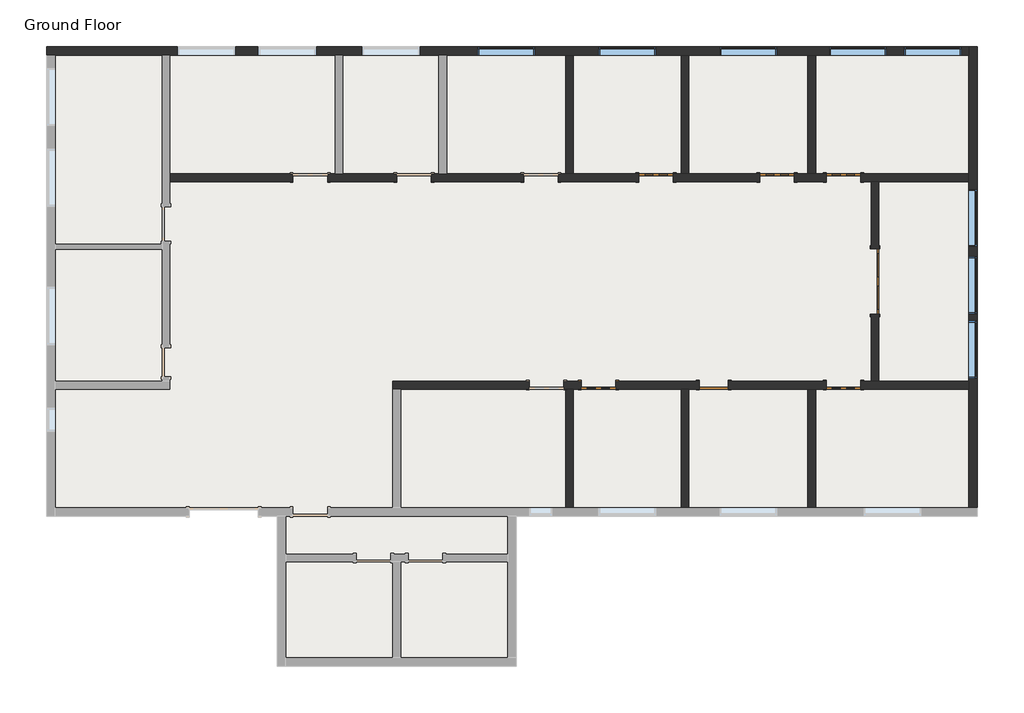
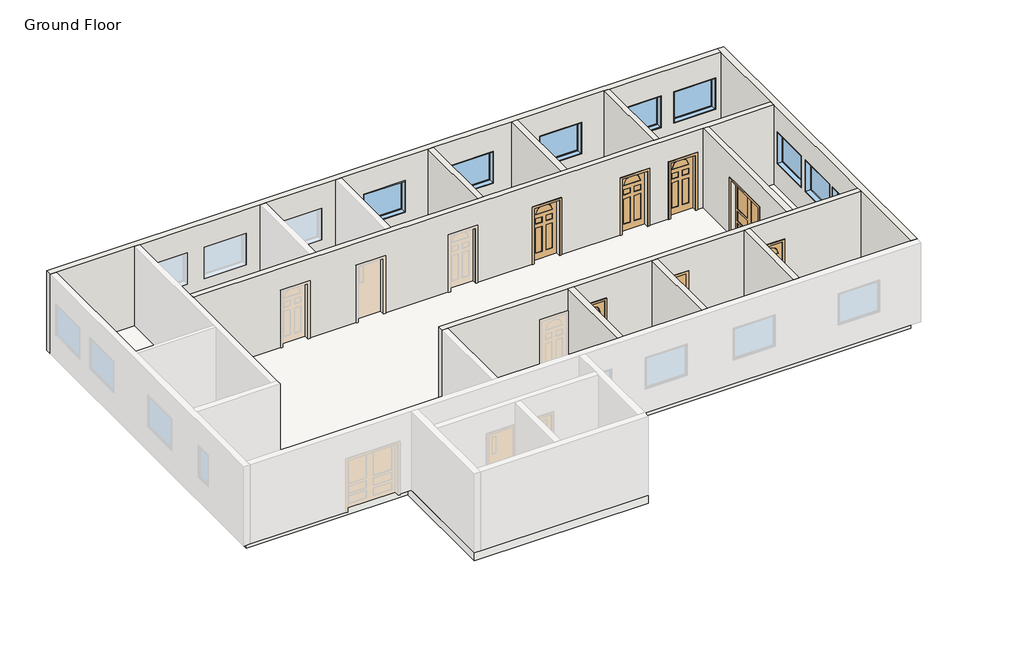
# One storey, part 2 of 2: 11 walls, 8 windows, 7 doors, 1 slab.
"""IFC4 building model written with IfcOpenShell, lengths in millimetres."""

from ifc_helpers import new_model, si_unit, frame, origin, origin_with_axes, place, context, project, spatial, polyline, outline, extrude, faceted_brep, transform, mapped, element, save
from components import door_5eeea989, door_f6339938, door_23e61c23, door_b6acaa4e, window_145d3b12

model = new_model("IFC4")

# Units and contexts
model_context = context("Model", 3, world=origin())
ifc_project = project(units=[si_unit("LENGTHUNIT", "METRE", prefix="MILLI")], contexts=[model_context])

# Site, building, storey
site = spatial("IfcSite", under=ifc_project)
building = spatial("IfcBuilding", under=site)
storey = spatial("IfcBuildingStorey", under=building, Name="Ground Floor", Elevation=0.0)

# Doors
placement = place(None, origin())
door_shape = door_5eeea989(model_context)
element("IfcDoor", 1, ObjectType="Double-Panel 1 : 68\" x 84\"", at=placement, inside=storey, context=model_context, shape_type="MappedRepresentation", body=[
    mapped(door_shape, transform((8515.1470059, 5602.8787797, 0.0), x_axis=(0.0, -1.0, 0.0), y_axis=(1.0, 0.0, 0.0), z_axis=(0.0, 0.0, 1.0))),
])
door_2_shape = door_f6339938(model_context)
element("IfcDoor", 2, ObjectType="Single-Decorative 2 : 36\" x 84\"", at=placement, inside=storey, context=model_context, shape_type="MappedRepresentation", body=[
    mapped(door_2_shape, transform((2723.9470059, 8346.0787797, 0.0), x_axis=(1.0, 0.0, 0.0), y_axis=(0.0, 1.0, 0.0), z_axis=(0.0, 0.0, 1.0))),
])
element("IfcDoor", 3, ObjectType="Single-Decorative 2 : 36\" x 84\"", at=placement, inside=storey, context=model_context, shape_type="MappedRepresentation", body=[
    mapped(door_2_shape, transform((5924.3470059, 8346.0787797, 0.0), x_axis=(1.0, 0.0, 0.0), y_axis=(0.0, 1.0, 0.0), z_axis=(0.0, 0.0, 1.0))),
])
element("IfcDoor", 4, ObjectType="Single-Decorative 2 : 36\" x 84\"", at=placement, inside=storey, context=model_context, shape_type="MappedRepresentation", body=[
    mapped(door_2_shape, transform((1199.9470059, 2859.6787797, 0.0), x_axis=(-1.0, 0.0, 0.0), y_axis=(0.0, -1.0, 0.0), z_axis=(0.0, 0.0, 1.0))),
])
element("IfcDoor", 5, ObjectType="Single-Decorative 2 : 36\" x 84\"", at=placement, inside=storey, context=model_context, shape_type="MappedRepresentation", body=[
    mapped(door_2_shape, transform((7676.9470059, 2859.6787797, 0.0), x_axis=(-1.0, 0.0, 0.0), y_axis=(0.0, -1.0, 0.0), z_axis=(0.0, 0.0, 1.0))),
])
door_3_shape = door_23e61c23(model_context)
element("IfcDoor", 6, ObjectType="Single-Decorative 2 : 36\" x 84\"", at=placement, inside=storey, context=model_context, shape_type="MappedRepresentation", body=[
    mapped(door_3_shape, transform((7676.9470059, 8346.0787797, 0.0), x_axis=(-1.0, 0.0, 0.0), y_axis=(0.0, -1.0, 0.0), z_axis=(0.0, 0.0, 1.0))),
])
door_4_shape = door_b6acaa4e(model_context)
element("IfcDoor", 7, ObjectType="Single-Flush : 30\" x 84\"", at=placement, inside=storey, context=model_context, shape_type="MappedRepresentation", body=[
    mapped(door_4_shape, transform((4247.9470059, 2859.6787797, 0.0), x_axis=(-1.0, 0.0, 0.0), y_axis=(0.0, -1.0, 0.0), z_axis=(0.0, 0.0, 1.0))),
])

# Slab
element("IfcSlab", 8, ObjectType="Generic - 12\"", at=placement, inside=storey, context=model_context, shape_type="SweptSolid", body=[
    extrude(outline(polyline([(10991.6470059, 11584.5787797), (10991.6470059, -378.8212203), (-971.7529941, -378.8212203), (-971.7529941, -4569.8212203), (-7296.3529941, -4569.8212203), (-7296.3529941, -378.8212203), (-13163.7529941, -378.8212203), (-13163.7529941, 11584.5787797), (10991.6470059, 11584.5787797)])), frame((0.0, 0.0, -304.8), z_axis=(0.0, 0.0, 1.0), x_axis=(1.0, 0.0, 0.0)), (0.0, 0.0, 1.0), 304.8),
])

# Walls
element("IfcWall", 9, ObjectType="Generic - 8\"", at=placement, inside=storey, context=model_context, shape_type="Brep", body=[
    faceted_brep([(6381.5470059, 8244.4787797, 0.0), (7219.7470059, 8244.4787797, 0.0), (7219.7470059, 8244.4787797, 2133.6), (8134.1470059, 8244.4787797, 2133.6), (8134.1470059, 8244.4787797, 0.0), (8413.5470059, 8244.4787797, 0.0), (8616.7470059, 8244.4787797, 0.0), (10991.6470059, 8244.4787797, 0.0), (10991.6470059, 8244.4787797, 3048.0), (8616.7470059, 8244.4787797, 3048.0), (8413.5470059, 8244.4787797, 3048.0), (-10128.4529941, 8244.4787797, 3048.0), (-10128.4529941, 8244.4787797, 0.0), (-6877.2529941, 8244.4787797, 0.0), (-6877.2529941, 8244.4787797, 2133.6), (-5962.8529941, 8244.4787797, 2133.6), (-5962.8529941, 8244.4787797, 0.0), (-4134.0529941, 8244.4787797, 0.0), (-4134.0529941, 8244.4787797, 2133.6), (-3219.6529941, 8244.4787797, 2133.6), (-3219.6529941, 8244.4787797, 0.0), (-781.2529941, 8244.4787797, 0.0), (-781.2529941, 8244.4787797, 2133.6), (133.1470059, 8244.4787797, 2133.6), (133.1470059, 8244.4787797, 0.0), (2266.7470059, 8244.4787797, 0.0), (2266.7470059, 8244.4787797, 2133.6), (3181.1470059, 8244.4787797, 2133.6), (3181.1470059, 8244.4787797, 0.0), (5467.1470059, 8244.4787797, 0.0), (5467.1470059, 8244.4787797, 2133.6), (6381.5470059, 8244.4787797, 2133.6), (7219.7470059, 8447.6787797, 2133.6), (7219.7470059, 8447.6787797, 0.0), (6940.3470059, 8447.6787797, 0.0), (6737.1470059, 8447.6787797, 0.0), (6381.5470059, 8447.6787797, 0.0), (6381.5470059, 8447.6787797, 2133.6), (5467.1470059, 8447.6787797, 2133.6), (5467.1470059, 8447.6787797, 0.0), (3587.5470059, 8447.6787797, 0.0), (3384.3470059, 8447.6787797, 0.0), (3181.1470059, 8447.6787797, 0.0), (3181.1470059, 8447.6787797, 2133.6), (2266.7470059, 8447.6787797, 2133.6), (2266.7470059, 8447.6787797, 0.0), (539.5470059, 8447.6787797, 0.0), (336.3470059, 8447.6787797, 0.0), (133.1470059, 8447.6787797, 0.0), (133.1470059, 8447.6787797, 2133.6), (-781.2529941, 8447.6787797, 2133.6), (-781.2529941, 8447.6787797, 0.0), (-2813.2529941, 8447.6787797, 0.0), (-3016.4529941, 8447.6787797, 0.0), (-3219.6529941, 8447.6787797, 0.0), (-3219.6529941, 8447.6787797, 2133.6), (-4134.0529941, 8447.6787797, 2133.6), (-4134.0529941, 8447.6787797, 0.0), (-5556.4529941, 8447.6787797, 0.0), (-5759.6529941, 8447.6787797, 0.0), (-5962.8529941, 8447.6787797, 0.0), (-5962.8529941, 8447.6787797, 2133.6), (-6877.2529941, 8447.6787797, 2133.6), (-6877.2529941, 8447.6787797, 0.0), (-10128.4529941, 8447.6787797, 0.0), (-10128.4529941, 8447.6787797, 3048.0), (-5759.6529941, 8447.6787797, 3048.0), (-5556.4529941, 8447.6787797, 3048.0), (-3016.4529941, 8447.6787797, 3048.0), (-2813.2529941, 8447.6787797, 3048.0), (336.3470059, 8447.6787797, 3048.0), (539.5470059, 8447.6787797, 3048.0), (3384.3470059, 8447.6787797, 3048.0), (3587.5470059, 8447.6787797, 3048.0), (6737.1470059, 8447.6787797, 3048.0), (6940.3470059, 8447.6787797, 3048.0), (10991.6470059, 8447.6787797, 3048.0), (10991.6470059, 8447.6787797, 0.0), (8134.1470059, 8447.6787797, 0.0), (8134.1470059, 8447.6787797, 2133.6)], [[[0, 1, 2, 3, 4, 5, 6, 7, 8, 9, 10, 11, 12, 13, 14, 15, 16, 17, 18, 19, 20, 21, 22, 23, 24, 25, 26, 27, 28, 29, 30, 31]], [[32, 33, 34, 35, 36, 37, 38, 39, 40, 41, 42, 43, 44, 45, 46, 47, 48, 49, 50, 51, 52, 53, 54, 55, 56, 57, 58, 59, 60, 61, 62, 63, 64, 65, 66, 67, 68, 69, 70, 71, 72, 73, 74, 75, 76, 77, 78, 79]], [[13, 12, 64, 63]], [[17, 16, 60, 59, 58, 57]], [[21, 20, 54, 53, 52, 51]], [[25, 24, 48, 47, 46, 45]], [[29, 28, 42, 41, 40, 39]], [[78, 77, 7, 6, 5, 4]], [[36, 35, 34, 33, 1, 0]], [[11, 10, 9, 8, 76, 75, 74, 73, 72, 71, 70, 69, 68, 67, 66, 65]], [[8, 7, 77, 76]], [[12, 11, 65, 64]], [[55, 54, 20, 19]], [[56, 55, 19, 18]], [[57, 56, 18, 17]], [[61, 60, 16, 15]], [[62, 61, 15, 14]], [[63, 62, 14, 13]], [[49, 48, 24, 23]], [[50, 49, 23, 22]], [[51, 50, 22, 21]], [[43, 42, 28, 27]], [[44, 43, 27, 26]], [[45, 44, 26, 25]], [[37, 36, 0, 31]], [[38, 37, 31, 30]], [[39, 38, 30, 29]], [[2, 1, 33, 32]], [[3, 2, 32, 79]], [[4, 3, 79, 78]]]),
])
element("IfcWall", 10, ObjectType="Generic - 8\"", at=placement, inside=storey, context=model_context, shape_type="SweptSolid", body=[
    extrude(outline(polyline([(336.3470059, 8447.6787797), (336.3470059, 11584.5787797), (539.5470059, 11584.5787797), (539.5470059, 8447.6787797), (336.3470059, 8447.6787797)])), origin_with_axes(), (0.0, 0.0, 1.0), 3048.0),
])
element("IfcWall", 11, ObjectType="Generic - 8\"", at=placement, inside=storey, context=model_context, shape_type="SweptSolid", body=[
    extrude(outline(polyline([(3384.3470059, 8447.6787797), (3384.3470059, 11584.5787797), (3587.5470059, 11584.5787797), (3587.5470059, 8447.6787797), (3384.3470059, 8447.6787797)])), origin_with_axes(), (0.0, 0.0, 1.0), 3048.0),
])
element("IfcWall", 12, ObjectType="Generic - 8\"", at=placement, inside=storey, context=model_context, shape_type="SweptSolid", body=[
    extrude(outline(polyline([(6737.1470059, 8447.6787797), (6737.1470059, 11584.5787797), (6940.3470059, 11584.5787797), (6940.3470059, 8447.6787797), (6737.1470059, 8447.6787797)])), origin_with_axes(), (0.0, 0.0, 1.0), 3048.0),
])
element("IfcWall", 13, ObjectType="Generic - 8\"", at=placement, inside=storey, context=model_context, shape_type="Brep", body=[
    faceted_brep([(1657.1470059, 2758.0787797, 0.0), (3384.3470059, 2758.0787797, 0.0), (3587.5470059, 2758.0787797, 0.0), (3866.9470059, 2758.0787797, 0.0), (3866.9470059, 2758.0787797, 2133.6), (4628.9470059, 2758.0787797, 2133.6), (4628.9470059, 2758.0787797, 0.0), (6737.1470059, 2758.0787797, 0.0), (6940.3470059, 2758.0787797, 0.0), (7219.7470059, 2758.0787797, 0.0), (7219.7470059, 2758.0787797, 2133.6), (8134.1470059, 2758.0787797, 2133.6), (8134.1470059, 2758.0787797, 0.0), (10991.6470059, 2758.0787797, 0.0), (10991.6470059, 2758.0787797, 3048.0), (6940.3470059, 2758.0787797, 3048.0), (6737.1470059, 2758.0787797, 3048.0), (3587.5470059, 2758.0787797, 3048.0), (3384.3470059, 2758.0787797, 3048.0), (539.5470059, 2758.0787797, 3048.0), (336.3470059, 2758.0787797, 3048.0), (-4032.4529941, 2758.0787797, 3048.0), (-4235.6529941, 2758.0787797, 3048.0), (-4235.6529941, 2758.0787797, 0.0), (-4032.4529941, 2758.0787797, 0.0), (-628.8529941, 2758.0787797, 0.0), (-628.8529941, 2758.0787797, 2133.6), (285.5470059, 2758.0787797, 2133.6), (285.5470059, 2758.0787797, 0.0), (336.3470059, 2758.0787797, 0.0), (539.5470059, 2758.0787797, 0.0), (742.7470059, 2758.0787797, 0.0), (742.7470059, 2758.0787797, 2133.6), (1657.1470059, 2758.0787797, 2133.6), (3866.9470059, 2961.2787797, 2133.6), (3866.9470059, 2961.2787797, 0.0), (1657.1470059, 2961.2787797, 0.0), (1657.1470059, 2961.2787797, 2133.6), (742.7470059, 2961.2787797, 2133.6), (742.7470059, 2961.2787797, 0.0), (285.5470059, 2961.2787797, 0.0), (285.5470059, 2961.2787797, 2133.6), (-628.8529941, 2961.2787797, 2133.6), (-628.8529941, 2961.2787797, 0.0), (-4235.6529941, 2961.2787797, 0.0), (-4235.6529941, 2961.2787797, 3048.0), (8413.5470059, 2961.2787797, 3048.0), (8616.7470059, 2961.2787797, 3048.0), (10991.6470059, 2961.2787797, 3048.0), (10991.6470059, 2961.2787797, 0.0), (8616.7470059, 2961.2787797, 0.0), (8413.5470059, 2961.2787797, 0.0), (8134.1470059, 2961.2787797, 0.0), (8134.1470059, 2961.2787797, 2133.6), (7219.7470059, 2961.2787797, 2133.6), (7219.7470059, 2961.2787797, 0.0), (4628.9470059, 2961.2787797, 0.0), (4628.9470059, 2961.2787797, 2133.6)], [[[0, 1, 2, 3, 4, 5, 6, 7, 8, 9, 10, 11, 12, 13, 14, 15, 16, 17, 18, 19, 20, 21, 22, 23, 24, 25, 26, 27, 28, 29, 30, 31, 32, 33]], [[34, 35, 36, 37, 38, 39, 40, 41, 42, 43, 44, 45, 46, 47, 48, 49, 50, 51, 52, 53, 54, 55, 56, 57]], [[44, 43, 25, 24, 23]], [[40, 39, 31, 30, 29, 28]], [[52, 51, 50, 49, 13, 12]], [[56, 55, 9, 8, 7, 6]], [[36, 35, 3, 2, 1, 0]], [[22, 21, 20, 19, 18, 17, 16, 15, 14, 48, 47, 46, 45]], [[14, 13, 49, 48]], [[23, 22, 45, 44]], [[26, 25, 43, 42]], [[27, 26, 42, 41]], [[28, 27, 41, 40]], [[32, 31, 39, 38]], [[33, 32, 38, 37]], [[0, 33, 37, 36]], [[10, 9, 55, 54]], [[11, 10, 54, 53]], [[12, 11, 53, 52]], [[4, 3, 35, 34]], [[5, 4, 34, 57]], [[6, 5, 57, 56]]]),
])
element("IfcWall", 14, ObjectType="Generic - 8\"", at=placement, inside=storey, context=model_context, shape_type="SweptSolid", body=[
    extrude(outline(polyline([(539.5470059, 2758.0787797), (539.5470059, -378.8212203), (336.3470059, -378.8212203), (336.3470059, 2758.0787797), (539.5470059, 2758.0787797)])), origin_with_axes(), (0.0, 0.0, 1.0), 3048.0),
])
element("IfcWall", 15, ObjectType="Generic - 8\"", at=placement, inside=storey, context=model_context, shape_type="SweptSolid", body=[
    extrude(outline(polyline([(3587.5470059, 2758.0787797), (3587.5470059, -378.8212203), (3384.3470059, -378.8212203), (3384.3470059, 2758.0787797), (3587.5470059, 2758.0787797)])), origin_with_axes(), (0.0, 0.0, 1.0), 3048.0),
])
element("IfcWall", 16, ObjectType="Generic - 8\"", at=placement, inside=storey, context=model_context, shape_type="SweptSolid", body=[
    extrude(outline(polyline([(6940.3470059, 2758.0787797), (6940.3470059, -378.8212203), (6737.1470059, -378.8212203), (6737.1470059, 2758.0787797), (6940.3470059, 2758.0787797)])), origin_with_axes(), (0.0, 0.0, 1.0), 3048.0),
])
element("IfcWall", 17, ObjectType="Generic - 8\"", at=placement, inside=storey, context=model_context, shape_type="SweptSolid", body=[
    extrude(outline(polyline([(2961.2787797, 3048.0), (8244.4787797, 3048.0), (8244.4787797, 0.0), (6466.4787797, 0.0), (6466.4787797, 2133.6), (4739.2787797, 2133.6), (4739.2787797, 0.0), (2961.2787797, 0.0), (2961.2787797, 3048.0)])), frame((8413.5470059, 0.0, 0.0), z_axis=(1.0, 0.0, 0.0), x_axis=(0.0, 1.0, 0.0)), (0.0, 0.0, 1.0), 203.2),
])
element("IfcWall", 18, ObjectType="Generic- 9\"", at=placement, inside=storey, context=model_context, shape_type="Brep", body=[
    faceted_brep([(-13392.3529941, 11584.5787797, 0.0), (-13163.7529941, 11584.5787797, 0.0), (-10331.6529941, 11584.5787797, 0.0), (-10128.4529941, 11584.5787797, 0.0), (-5759.6529941, 11584.5787797, 0.0), (-5556.4529941, 11584.5787797, 0.0), (-3016.4529941, 11584.5787797, 0.0), (-2813.2529941, 11584.5787797, 0.0), (336.3470059, 11584.5787797, 0.0), (539.5470059, 11584.5787797, 0.0), (3384.3470059, 11584.5787797, 0.0), (3587.5470059, 11584.5787797, 0.0), (6737.1470059, 11584.5787797, 0.0), (6940.3470059, 11584.5787797, 0.0), (10991.6470059, 11584.5787797, 0.0), (10991.6470059, 11584.5787797, 3048.0), (6940.3470059, 11584.5787797, 3048.0), (6737.1470059, 11584.5787797, 3048.0), (3587.5470059, 11584.5787797, 3048.0), (3384.3470059, 11584.5787797, 3048.0), (539.5470059, 11584.5787797, 3048.0), (336.3470059, 11584.5787797, 3048.0), (-2813.2529941, 11584.5787797, 3048.0), (-3016.4529941, 11584.5787797, 3048.0), (-5556.4529941, 11584.5787797, 3048.0), (-5759.6529941, 11584.5787797, 3048.0), (-10128.4529941, 11584.5787797, 3048.0), (-10331.6529941, 11584.5787797, 3048.0), (-13163.7529941, 11584.5787797, 3048.0), (-13392.3529941, 11584.5787797, 3048.0), (-8401.2529941, 11584.5787797, 2133.6), (-8401.2529941, 11584.5787797, 914.4), (-9925.2529941, 11584.5787797, 914.4), (-9925.2529941, 11584.5787797, 2133.6), (-6267.6529941, 11584.5787797, 2133.6), (-6267.6529941, 11584.5787797, 914.4), (-7791.6529941, 11584.5787797, 914.4), (-7791.6529941, 11584.5787797, 2133.6), (-3524.4529941, 11584.5787797, 2133.6), (-3524.4529941, 11584.5787797, 914.4), (-5048.4529941, 11584.5787797, 914.4), (-5048.4529941, 11584.5787797, 2133.6), (-476.4529941, 11584.5787797, 2133.6), (-476.4529941, 11584.5787797, 914.4), (-2000.4529941, 11584.5787797, 914.4), (-2000.4529941, 11584.5787797, 2133.6), (2723.9470059, 11584.5787797, 2133.6), (2723.9470059, 11584.5787797, 914.4), (1199.9470059, 11584.5787797, 914.4), (1199.9470059, 11584.5787797, 2133.6), (5924.3470059, 11584.5787797, 2133.6), (5924.3470059, 11584.5787797, 914.4), (4400.3470059, 11584.5787797, 914.4), (4400.3470059, 11584.5787797, 2133.6), (8819.9470059, 11584.5787797, 2133.6), (8819.9470059, 11584.5787797, 914.4), (7295.9470059, 11584.5787797, 914.4), (7295.9470059, 11584.5787797, 2133.6), (10801.1470059, 11584.5787797, 2133.6), (10801.1470059, 11584.5787797, 914.4), (9277.1470059, 11584.5787797, 914.4), (9277.1470059, 11584.5787797, 2133.6), (-13392.3529941, 11813.1787797, 0.0), (-13392.3529941, 11813.1787797, 3048.0), (10991.6470059, 11813.1787797, 3048.0), (10991.6470059, 11813.1787797, 0.0), (-8401.2529941, 11813.1787797, 2133.6), (-9925.2529941, 11813.1787797, 2133.6), (-9925.2529941, 11813.1787797, 914.4), (-8401.2529941, 11813.1787797, 914.4), (-6267.6529941, 11813.1787797, 2133.6), (-7791.6529941, 11813.1787797, 2133.6), (-7791.6529941, 11813.1787797, 914.4), (-6267.6529941, 11813.1787797, 914.4), (-3524.4529941, 11813.1787797, 2133.6), (-5048.4529941, 11813.1787797, 2133.6), (-5048.4529941, 11813.1787797, 914.4), (-3524.4529941, 11813.1787797, 914.4), (-476.4529941, 11813.1787797, 2133.6), (-2000.4529941, 11813.1787797, 2133.6), (-2000.4529941, 11813.1787797, 914.4), (-476.4529941, 11813.1787797, 914.4), (2723.9470059, 11813.1787797, 2133.6), (1199.9470059, 11813.1787797, 2133.6), (1199.9470059, 11813.1787797, 914.4), (2723.9470059, 11813.1787797, 914.4), (5924.3470059, 11813.1787797, 2133.6), (4400.3470059, 11813.1787797, 2133.6), (4400.3470059, 11813.1787797, 914.4), (5924.3470059, 11813.1787797, 914.4), (8819.9470059, 11813.1787797, 2133.6), (7295.9470059, 11813.1787797, 2133.6), (7295.9470059, 11813.1787797, 914.4), (8819.9470059, 11813.1787797, 914.4), (10801.1470059, 11813.1787797, 2133.6), (9277.1470059, 11813.1787797, 2133.6), (9277.1470059, 11813.1787797, 914.4), (10801.1470059, 11813.1787797, 914.4)], [[[0, 1, 2, 3, 4, 5, 6, 7, 8, 9, 10, 11, 12, 13, 14, 15, 16, 17, 18, 19, 20, 21, 22, 23, 24, 25, 26, 27, 28, 29], [30, 31, 32, 33], [34, 35, 36, 37], [38, 39, 40, 41], [42, 43, 44, 45], [46, 47, 48, 49], [50, 51, 52, 53], [54, 55, 56, 57], [58, 59, 60, 61]], [[62, 63, 64, 65], [66, 67, 68, 69], [70, 71, 72, 73], [74, 75, 76, 77], [78, 79, 80, 81], [82, 83, 84, 85], [86, 87, 88, 89], [90, 91, 92, 93], [94, 95, 96, 97]], [[14, 13, 12, 11, 10, 9, 8, 7, 6, 5, 4, 3, 2, 1, 0, 62, 65]], [[29, 28, 27, 26, 25, 24, 23, 22, 21, 20, 19, 18, 17, 16, 15, 64, 63]], [[0, 29, 63, 62]], [[15, 14, 65, 64]], [[31, 30, 66, 69]], [[32, 31, 69, 68]], [[33, 32, 68, 67]], [[30, 33, 67, 66]], [[35, 34, 70, 73]], [[36, 35, 73, 72]], [[37, 36, 72, 71]], [[34, 37, 71, 70]], [[39, 38, 74, 77]], [[40, 39, 77, 76]], [[41, 40, 76, 75]], [[38, 41, 75, 74]], [[43, 42, 78, 81]], [[44, 43, 81, 80]], [[45, 44, 80, 79]], [[42, 45, 79, 78]], [[47, 46, 82, 85]], [[48, 47, 85, 84]], [[49, 48, 84, 83]], [[46, 49, 83, 82]], [[51, 50, 86, 89]], [[52, 51, 89, 88]], [[53, 52, 88, 87]], [[50, 53, 87, 86]], [[55, 54, 90, 93]], [[56, 55, 93, 92]], [[57, 56, 92, 91]], [[54, 57, 91, 90]], [[59, 58, 94, 97]], [[60, 59, 97, 96]], [[61, 60, 96, 95]], [[58, 61, 95, 94]]]),
])
element("IfcWall", 19, ObjectType="Generic- 9\"", at=placement, inside=storey, context=model_context, shape_type="Brep", body=[
    faceted_brep([(10991.6470059, 11813.1787797, 0.0), (10991.6470059, 11584.5787797, 0.0), (10991.6470059, 8447.6787797, 0.0), (10991.6470059, 8244.4787797, 0.0), (10991.6470059, 2961.2787797, 0.0), (10991.6470059, 2758.0787797, 0.0), (10991.6470059, -378.8212203, 0.0), (10991.6470059, -378.8212203, 3048.0), (10991.6470059, 2758.0787797, 3048.0), (10991.6470059, 2961.2787797, 3048.0), (10991.6470059, 8244.4787797, 3048.0), (10991.6470059, 8447.6787797, 3048.0), (10991.6470059, 11584.5787797, 3048.0), (10991.6470059, 11813.1787797, 3048.0), (10991.6470059, 6517.2787797, 2133.6), (10991.6470059, 6517.2787797, 914.4), (10991.6470059, 8041.2787797, 914.4), (10991.6470059, 8041.2787797, 2133.6), (10991.6470059, 4739.2787797, 2133.6), (10991.6470059, 4739.2787797, 914.4), (10991.6470059, 6263.2787797, 914.4), (10991.6470059, 6263.2787797, 2133.6), (10991.6470059, 3037.4787797, 2133.6), (10991.6470059, 3037.4787797, 914.4), (10991.6470059, 4561.4787797, 914.4), (10991.6470059, 4561.4787797, 2133.6), (11220.2470059, 11813.1787797, 0.0), (11220.2470059, 11813.1787797, 3048.0), (11220.2470059, -378.8212203, 3048.0), (11220.2470059, -378.8212203, 0.0), (11220.2470059, 6517.2787797, 2133.6), (11220.2470059, 8041.2787797, 2133.6), (11220.2470059, 8041.2787797, 914.4), (11220.2470059, 6517.2787797, 914.4), (11220.2470059, 4739.2787797, 2133.6), (11220.2470059, 6263.2787797, 2133.6), (11220.2470059, 6263.2787797, 914.4), (11220.2470059, 4739.2787797, 914.4), (11220.2470059, 3037.4787797, 2133.6), (11220.2470059, 4561.4787797, 2133.6), (11220.2470059, 4561.4787797, 914.4), (11220.2470059, 3037.4787797, 914.4)], [[[0, 1, 2, 3, 4, 5, 6, 7, 8, 9, 10, 11, 12, 13], [14, 15, 16, 17], [18, 19, 20, 21], [22, 23, 24, 25]], [[26, 27, 28, 29], [30, 31, 32, 33], [34, 35, 36, 37], [38, 39, 40, 41]], [[6, 5, 4, 3, 2, 1, 0, 26, 29]], [[13, 12, 11, 10, 9, 8, 7, 28, 27]], [[0, 13, 27, 26]], [[7, 6, 29, 28]], [[15, 14, 30, 33]], [[16, 15, 33, 32]], [[17, 16, 32, 31]], [[14, 17, 31, 30]], [[19, 18, 34, 37]], [[20, 19, 37, 36]], [[21, 20, 36, 35]], [[18, 21, 35, 34]], [[23, 22, 38, 41]], [[24, 23, 41, 40]], [[25, 24, 40, 39]], [[22, 25, 39, 38]]]),
])

# Windows
window_shape = window_145d3b12(model_context)
element("IfcWindow", 20, ObjectType="Fixed : 60\" x 48\"", at=placement, inside=storey, context=model_context, shape_type="MappedRepresentation", body=[
    mapped(window_shape, transform((-1200.3529941, 11698.8787797, 0.0), x_axis=(1.0, 0.0, 0.0), y_axis=(0.0, 1.0, 0.0), z_axis=(0.0, 0.0, 1.0))),
])
element("IfcWindow", 21, ObjectType="Fixed : 60\" x 48\"", at=placement, inside=storey, context=model_context, shape_type="MappedRepresentation", body=[
    mapped(window_shape, transform((2000.0470059, 11698.8787797, 0.0), x_axis=(1.0, 0.0, 0.0), y_axis=(0.0, 1.0, 0.0), z_axis=(0.0, 0.0, 1.0))),
])
element("IfcWindow", 22, ObjectType="Fixed : 60\" x 48\"", at=placement, inside=storey, context=model_context, shape_type="MappedRepresentation", body=[
    mapped(window_shape, transform((5200.4470059, 11698.8787797, 0.0), x_axis=(1.0, 0.0, 0.0), y_axis=(0.0, 1.0, 0.0), z_axis=(0.0, 0.0, 1.0))),
])
element("IfcWindow", 23, ObjectType="Fixed : 60\" x 48\"", at=placement, inside=storey, context=model_context, shape_type="MappedRepresentation", body=[
    mapped(window_shape, transform((8096.0470059, 11698.8787797, 0.0), x_axis=(1.0, 0.0, 0.0), y_axis=(0.0, 1.0, 0.0), z_axis=(0.0, 0.0, 1.0))),
])
element("IfcWindow", 24, ObjectType="Fixed : 60\" x 48\"", at=placement, inside=storey, context=model_context, shape_type="MappedRepresentation", body=[
    mapped(window_shape, transform((10077.2470059, 11698.8787797, 0.0), x_axis=(1.0, 0.0, 0.0), y_axis=(0.0, 1.0, 0.0), z_axis=(0.0, 0.0, 1.0))),
])
element("IfcWindow", 25, ObjectType="Fixed : 60\" x 48\"", at=placement, inside=storey, context=model_context, shape_type="MappedRepresentation", body=[
    mapped(window_shape, transform((11105.9470059, 7241.1787797, 0.0), x_axis=(0.0, -1.0, 0.0), y_axis=(1.0, 0.0, 0.0), z_axis=(0.0, 0.0, 1.0))),
])
element("IfcWindow", 26, ObjectType="Fixed : 60\" x 48\"", at=placement, inside=storey, context=model_context, shape_type="MappedRepresentation", body=[
    mapped(window_shape, transform((11105.9470059, 5463.1787797, 0.0), x_axis=(0.0, -1.0, 0.0), y_axis=(1.0, 0.0, 0.0), z_axis=(0.0, 0.0, 1.0))),
])
element("IfcWindow", 27, ObjectType="Fixed : 60\" x 48\"", at=placement, inside=storey, context=model_context, shape_type="MappedRepresentation", body=[
    mapped(window_shape, transform((11105.9470059, 3761.3787797, 0.0), x_axis=(0.0, -1.0, 0.0), y_axis=(1.0, 0.0, 0.0), z_axis=(0.0, 0.0, 1.0))),
])

save(model, "model.ifc")
